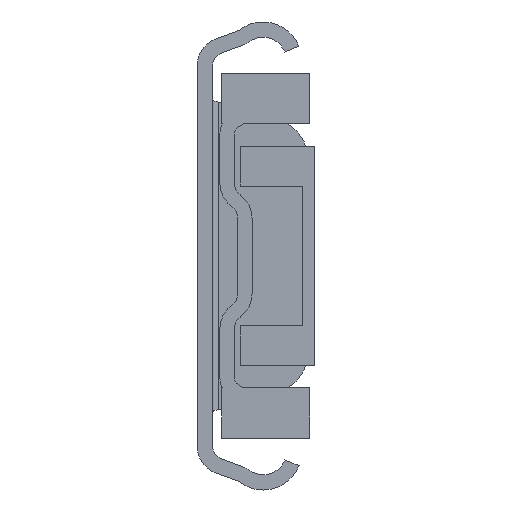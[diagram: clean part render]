
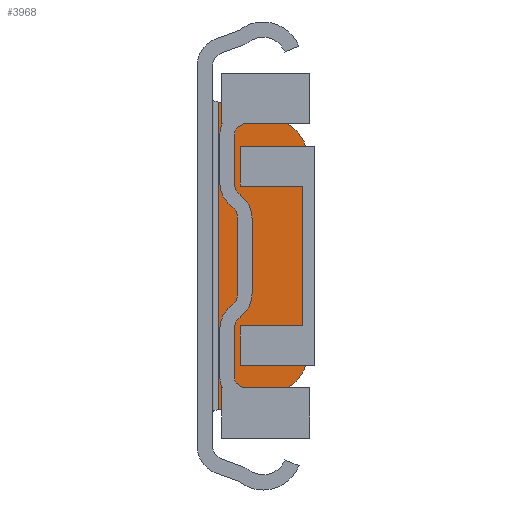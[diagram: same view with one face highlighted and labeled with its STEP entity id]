
A CAD part, front view. The second image highlights one B-rep face of the part: STEP entity #3968.
In plain terms, the highlighted planar face has unit normal (0, -1, 0).
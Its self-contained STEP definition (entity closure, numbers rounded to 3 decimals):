
#338=LINE('',#6826,#722);
#339=LINE('',#6831,#723);
#340=LINE('',#6835,#724);
#341=LINE('',#6837,#725);
#722=VECTOR('',#5654,1000.);
#723=VECTOR('',#5657,1000.);
#724=VECTOR('',#5660,1000.);
#725=VECTOR('',#5661,1000.);
#890=PLANE('',#4709);
#1746=ORIENTED_EDGE('',*,*,#2470,.F.);
#1747=ORIENTED_EDGE('',*,*,#2471,.F.);
#1748=ORIENTED_EDGE('',*,*,#2472,.F.);
#1749=ORIENTED_EDGE('',*,*,#2473,.F.);
#1750=ORIENTED_EDGE('',*,*,#2474,.F.);
#1751=ORIENTED_EDGE('',*,*,#2475,.F.);
#2470=EDGE_CURVE('',#2908,#2909,#338,.T.);
#2471=EDGE_CURVE('',#2910,#2908,#3136,.F.);
#2472=EDGE_CURVE('',#2911,#2910,#339,.T.);
#2473=EDGE_CURVE('',#2912,#2911,#3137,.F.);
#2474=EDGE_CURVE('',#2913,#2912,#340,.T.);
#2475=EDGE_CURVE('',#2909,#2913,#341,.T.);
#2908=VERTEX_POINT('',#6827);
#2909=VERTEX_POINT('',#6828);
#2910=VERTEX_POINT('',#6830);
#2911=VERTEX_POINT('',#6832);
#2912=VERTEX_POINT('',#6834);
#2913=VERTEX_POINT('',#6836);
#3136=CIRCLE('',#4710,8.);
#3137=CIRCLE('',#4711,8.);
#3380=EDGE_LOOP('',(#1746,#1747,#1748,#1749,#1750,#1751));
#3650=FACE_BOUND('',#3380,.T.);
#3968=ADVANCED_FACE('',(#3650),#890,.T.);
#4709=AXIS2_PLACEMENT_3D('',#6825,#5652,#5653);
#4710=AXIS2_PLACEMENT_3D('',#6829,#5655,#5656);
#4711=AXIS2_PLACEMENT_3D('',#6833,#5658,#5659);
#5652=DIRECTION('',(0.,-1.,0.));
#5653=DIRECTION('',(0.,0.,-1.));
#5654=DIRECTION('',(-0.966,0.,-0.259));
#5655=DIRECTION('',(0.,-1.,0.));
#5656=DIRECTION('',(0.,0.,-1.));
#5657=DIRECTION('',(0.,0.,-1.));
#5658=DIRECTION('',(0.,-1.,0.));
#5659=DIRECTION('',(0.,0.,-1.));
#5660=DIRECTION('',(0.966,0.,-0.259));
#5661=DIRECTION('',(0.,0.,1.));
#6825=CARTESIAN_POINT('',(12.9,1826.3,14.965));
#6826=CARTESIAN_POINT('',(22.316,1826.3,-20.174));
#6827=CARTESIAN_POINT('',(12.471,1826.3,-22.812));
#6828=CARTESIAN_POINT('',(3.5,1826.3,-25.216));
#6829=CARTESIAN_POINT('',(10.4,1826.3,-15.085));
#6830=CARTESIAN_POINT('',(18.4,1826.3,-15.085));
#6831=CARTESIAN_POINT('',(18.4,1826.3,14.965));
#6832=CARTESIAN_POINT('',(18.4,1826.3,15.085));
#6833=CARTESIAN_POINT('',(10.4,1826.3,15.085));
#6834=CARTESIAN_POINT('',(12.471,1826.3,22.812));
#6835=CARTESIAN_POINT('',(14.833,1826.3,22.179));
#6836=CARTESIAN_POINT('',(3.5,1826.3,25.216));
#6837=CARTESIAN_POINT('',(3.5,1826.3,-25.766));
